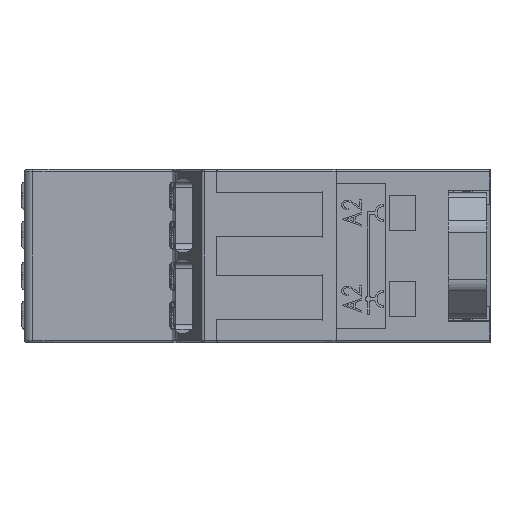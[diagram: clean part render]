
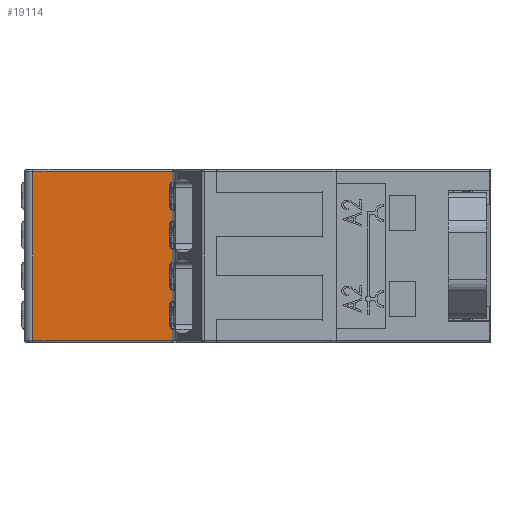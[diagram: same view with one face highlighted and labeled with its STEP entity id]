
A CAD part, left-side view. The second image highlights one B-rep face of the part: STEP entity #19114.
In plain terms, the highlighted planar face has unit normal (-1, 0, 0).
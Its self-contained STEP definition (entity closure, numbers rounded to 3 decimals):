
#107 = DIRECTION ( 'NONE',  ( 0., 0., -1. ) ) ;
#558 = VECTOR ( 'NONE', #37578, 1000. ) ;
#1366 = CARTESIAN_POINT ( 'NONE',  ( 4.24, 3.692, -65.044 ) ) ;
#1424 = VECTOR ( 'NONE', #37601, 1000. ) ;
#1657 = DIRECTION ( 'NONE',  ( 0., -1., 0. ) ) ;
#2666 = CARTESIAN_POINT ( 'NONE',  ( 4.24, 3.942, -64.794 ) ) ;
#2803 = CARTESIAN_POINT ( 'NONE',  ( 4.24, 3.942, -50.994 ) ) ;
#2816 = EDGE_LOOP ( 'NONE', ( #42781, #36583, #4434, #39867, #21092, #18805, #15170, #37303, #14761, #22678 ) ) ;
#4434 = ORIENTED_EDGE ( 'NONE', *, *, #38403, .F. ) ;
#5158 = CARTESIAN_POINT ( 'NONE',  ( 4.24, -2.958, -65.044 ) ) ;
#5435 = EDGE_CURVE ( 'NONE', #12977, #17347, #28155, .T. ) ;
#6245 = DIRECTION ( 'NONE',  ( 0., 0., 1. ) ) ;
#6607 = LINE ( 'NONE', #30582, #43653 ) ;
#6982 = FACE_OUTER_BOUND ( 'NONE', #2816, .T. ) ;
#7134 = CARTESIAN_POINT ( 'NONE',  ( 4.24, 16.642, -130.061 ) ) ;
#7741 = CARTESIAN_POINT ( 'NONE',  ( 4.24, 3.692, -52.544 ) ) ;
#8876 = EDGE_CURVE ( 'NONE', #23019, #14960, #6607, .T. ) ;
#8931 = LINE ( 'NONE', #2803, #26340 ) ;
#8987 = VERTEX_POINT ( 'NONE', #34694 ) ;
#9893 = CARTESIAN_POINT ( 'NONE',  ( 4.24, 3.942, -50.744 ) ) ;
#10066 = VERTEX_POINT ( 'NONE', #19333 ) ;
#10580 = CARTESIAN_POINT ( 'NONE',  ( 4.24, 3.942, -65.044 ) ) ;
#10636 = DIRECTION ( 'NONE',  ( 0., 0., 1. ) ) ;
#10866 = LINE ( 'NONE', #30570, #558 ) ;
#11231 = DIRECTION ( 'NONE',  ( 0., 0., -1. ) ) ;
#11551 = LINE ( 'NONE', #10580, #28992 ) ;
#12705 = EDGE_CURVE ( 'NONE', #18312, #17347, #29194, .T. ) ;
#12977 = VERTEX_POINT ( 'NONE', #1366 ) ;
#13692 = VECTOR ( 'NONE', #107, 1000. ) ;
#14172 = DIRECTION ( 'NONE',  ( 0., 1., 0. ) ) ;
#14761 = ORIENTED_EDGE ( 'NONE', *, *, #8876, .T. ) ;
#14960 = VERTEX_POINT ( 'NONE', #23343 ) ;
#15170 = ORIENTED_EDGE ( 'NONE', *, *, #27742, .T. ) ;
#15519 = EDGE_CURVE ( 'NONE', #14960, #26790, #8931, .T. ) ;
#16096 = VECTOR ( 'NONE', #1657, 1000. ) ;
#16639 = EDGE_CURVE ( 'NONE', #12977, #40311, #11551, .T. ) ;
#17347 = VERTEX_POINT ( 'NONE', #2666 ) ;
#18312 = VERTEX_POINT ( 'NONE', #43526 ) ;
#18805 = ORIENTED_EDGE ( 'NONE', *, *, #12705, .F. ) ;
#19114 = ADVANCED_FACE ( 'NONE', ( #6982 ), #28054, .F. ) ;
#19333 = CARTESIAN_POINT ( 'NONE',  ( 4.24, 16.642, -66.344 ) ) ;
#20074 = DIRECTION ( 'NONE',  ( 1., 0., 0. ) ) ;
#21092 = ORIENTED_EDGE ( 'NONE', *, *, #5435, .T. ) ;
#22251 = CARTESIAN_POINT ( 'NONE',  ( 4.24, 16.642, -50.994 ) ) ;
#22678 = ORIENTED_EDGE ( 'NONE', *, *, #15519, .T. ) ;
#22727 = AXIS2_PLACEMENT_3D ( 'NONE', #7741, #32089, #11231 ) ;
#23019 = VERTEX_POINT ( 'NONE', #23599 ) ;
#23343 = CARTESIAN_POINT ( 'NONE',  ( 4.24, -2.958, -50.994 ) ) ;
#23438 = AXIS2_PLACEMENT_3D ( 'NONE', #41008, #20074, #44509 ) ;
#23599 = CARTESIAN_POINT ( 'NONE',  ( 4.24, -2.958, -52.294 ) ) ;
#24567 = DIRECTION ( 'NONE',  ( 0., -1., 0. ) ) ;
#25389 = LINE ( 'NONE', #36358, #16096 ) ;
#26340 = VECTOR ( 'NONE', #37650, 1000. ) ;
#26790 = VERTEX_POINT ( 'NONE', #22251 ) ;
#27205 = VECTOR ( 'NONE', #10636, 1000. ) ;
#27742 = EDGE_CURVE ( 'NONE', #18312, #31143, #29903, .T. ) ;
#28054 = PLANE ( 'NONE',  #42351 ) ;
#28155 = CIRCLE ( 'NONE', #23438, 0.25 ) ;
#28992 = VECTOR ( 'NONE', #24567, 1000. ) ;
#29194 = LINE ( 'NONE', #9893, #1424 ) ;
#29903 = CIRCLE ( 'NONE', #22727, 0.25 ) ;
#30570 = CARTESIAN_POINT ( 'NONE',  ( 4.24, 3.942, -52.294 ) ) ;
#30582 = CARTESIAN_POINT ( 'NONE',  ( 4.24, -2.958, -52.294 ) ) ;
#31143 = VERTEX_POINT ( 'NONE', #37677 ) ;
#31551 = CARTESIAN_POINT ( 'NONE',  ( 4.24, 3.942, -50.744 ) ) ;
#32089 = DIRECTION ( 'NONE',  ( 1., 0., 0. ) ) ;
#32228 = LINE ( 'NONE', #41792, #13692 ) ;
#34694 = CARTESIAN_POINT ( 'NONE',  ( 4.24, -2.958, -66.344 ) ) ;
#35073 = DIRECTION ( 'NONE',  ( 1., 0., 0. ) ) ;
#35396 = LINE ( 'NONE', #7134, #27205 ) ;
#35414 = EDGE_CURVE ( 'NONE', #10066, #8987, #25389, .T. ) ;
#36358 = CARTESIAN_POINT ( 'NONE',  ( 4.24, -3.208, -66.344 ) ) ;
#36583 = ORIENTED_EDGE ( 'NONE', *, *, #35414, .T. ) ;
#37303 = ORIENTED_EDGE ( 'NONE', *, *, #40430, .F. ) ;
#37578 = DIRECTION ( 'NONE',  ( 0., 1., 0. ) ) ;
#37601 = DIRECTION ( 'NONE',  ( 0., 0., -1. ) ) ;
#37650 = DIRECTION ( 'NONE',  ( 0., 1., 0. ) ) ;
#37677 = CARTESIAN_POINT ( 'NONE',  ( 4.24, 3.692, -52.294 ) ) ;
#38403 = EDGE_CURVE ( 'NONE', #40311, #8987, #32228, .T. ) ;
#39867 = ORIENTED_EDGE ( 'NONE', *, *, #16639, .F. ) ;
#40311 = VERTEX_POINT ( 'NONE', #5158 ) ;
#40430 = EDGE_CURVE ( 'NONE', #23019, #31143, #10866, .T. ) ;
#40461 = EDGE_CURVE ( 'NONE', #10066, #26790, #35396, .T. ) ;
#41008 = CARTESIAN_POINT ( 'NONE',  ( 4.24, 3.692, -64.794 ) ) ;
#41792 = CARTESIAN_POINT ( 'NONE',  ( 4.24, -2.958, -65.044 ) ) ;
#42351 = AXIS2_PLACEMENT_3D ( 'NONE', #31551, #35073, #14172 ) ;
#42781 = ORIENTED_EDGE ( 'NONE', *, *, #40461, .F. ) ;
#43526 = CARTESIAN_POINT ( 'NONE',  ( 4.24, 3.942, -52.544 ) ) ;
#43653 = VECTOR ( 'NONE', #6245, 1000. ) ;
#44509 = DIRECTION ( 'NONE',  ( 0., 0., -1. ) ) ;
